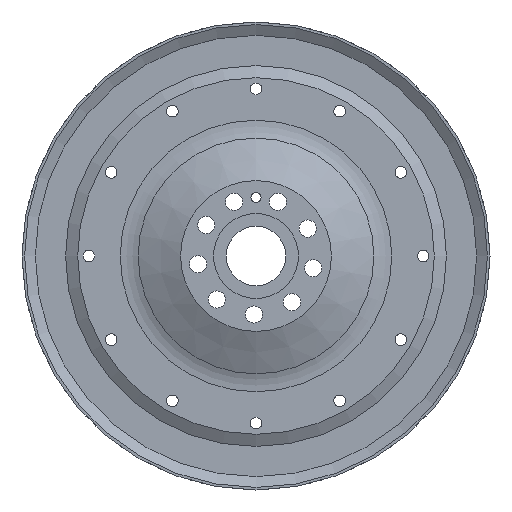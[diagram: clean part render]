
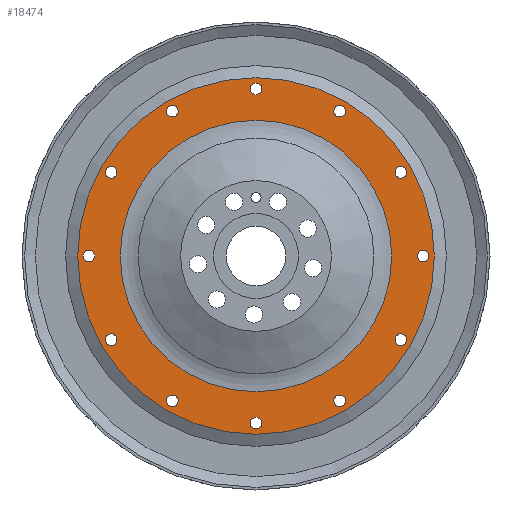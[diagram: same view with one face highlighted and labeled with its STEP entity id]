
A CAD part, left-side view. The second image highlights one B-rep face of the part: STEP entity #18474.
In plain terms, the highlighted planar face has unit normal (-1, 0, 0).
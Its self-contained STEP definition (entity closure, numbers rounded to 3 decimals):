
#417=PLANE('',#19600);
#7060=ORIENTED_EDGE('',*,*,#9190,.F.);
#7061=ORIENTED_EDGE('',*,*,#9191,.F.);
#7062=ORIENTED_EDGE('',*,*,#9192,.F.);
#7063=ORIENTED_EDGE('',*,*,#9193,.F.);
#7064=ORIENTED_EDGE('',*,*,#9194,.F.);
#7065=ORIENTED_EDGE('',*,*,#9195,.F.);
#7066=ORIENTED_EDGE('',*,*,#9196,.F.);
#7067=ORIENTED_EDGE('',*,*,#9197,.F.);
#7068=ORIENTED_EDGE('',*,*,#9198,.F.);
#7069=ORIENTED_EDGE('',*,*,#9199,.F.);
#7070=ORIENTED_EDGE('',*,*,#9200,.F.);
#7071=ORIENTED_EDGE('',*,*,#9201,.F.);
#7072=ORIENTED_EDGE('',*,*,#9202,.T.);
#7073=ORIENTED_EDGE('',*,*,#9189,.F.);
#9189=EDGE_CURVE('',#10581,#10581,#11047,.T.);
#9190=EDGE_CURVE('',#10582,#10582,#11048,.T.);
#9191=EDGE_CURVE('',#10583,#10583,#11049,.T.);
#9192=EDGE_CURVE('',#10584,#10584,#11050,.T.);
#9193=EDGE_CURVE('',#10585,#10585,#11051,.T.);
#9194=EDGE_CURVE('',#10586,#10586,#11052,.T.);
#9195=EDGE_CURVE('',#10587,#10587,#11053,.T.);
#9196=EDGE_CURVE('',#10588,#10588,#11054,.T.);
#9197=EDGE_CURVE('',#10589,#10589,#11055,.T.);
#9198=EDGE_CURVE('',#10590,#10590,#11056,.T.);
#9199=EDGE_CURVE('',#10591,#10591,#11057,.T.);
#9200=EDGE_CURVE('',#10592,#10592,#11058,.T.);
#9201=EDGE_CURVE('',#10593,#10593,#11059,.T.);
#9202=EDGE_CURVE('',#10594,#10594,#11060,.T.);
#10581=VERTEX_POINT('',#28949);
#10582=VERTEX_POINT('',#28952);
#10583=VERTEX_POINT('',#28954);
#10584=VERTEX_POINT('',#28956);
#10585=VERTEX_POINT('',#28958);
#10586=VERTEX_POINT('',#28960);
#10587=VERTEX_POINT('',#28962);
#10588=VERTEX_POINT('',#28964);
#10589=VERTEX_POINT('',#28966);
#10590=VERTEX_POINT('',#28968);
#10591=VERTEX_POINT('',#28970);
#10592=VERTEX_POINT('',#28972);
#10593=VERTEX_POINT('',#28974);
#10594=VERTEX_POINT('',#28976);
#11047=CIRCLE('',#19599,81.22);
#11048=CIRCLE('',#19601,3.459);
#11049=CIRCLE('',#19602,3.459);
#11050=CIRCLE('',#19603,3.459);
#11051=CIRCLE('',#19604,3.459);
#11052=CIRCLE('',#19605,3.459);
#11053=CIRCLE('',#19606,3.459);
#11054=CIRCLE('',#19607,3.459);
#11055=CIRCLE('',#19608,3.459);
#11056=CIRCLE('',#19609,3.459);
#11057=CIRCLE('',#19610,3.459);
#11058=CIRCLE('',#19611,3.459);
#11059=CIRCLE('',#19612,3.459);
#11060=CIRCLE('',#19613,106.68);
#11779=EDGE_LOOP('',(#7060));
#11780=EDGE_LOOP('',(#7061));
#11781=EDGE_LOOP('',(#7062));
#11782=EDGE_LOOP('',(#7063));
#11783=EDGE_LOOP('',(#7064));
#11784=EDGE_LOOP('',(#7065));
#11785=EDGE_LOOP('',(#7066));
#11786=EDGE_LOOP('',(#7067));
#11787=EDGE_LOOP('',(#7068));
#11788=EDGE_LOOP('',(#7069));
#11789=EDGE_LOOP('',(#7070));
#11790=EDGE_LOOP('',(#7071));
#11791=EDGE_LOOP('',(#7072));
#11792=EDGE_LOOP('',(#7073));
#12581=FACE_BOUND('',#11779,.T.);
#12582=FACE_BOUND('',#11780,.T.);
#12583=FACE_BOUND('',#11781,.T.);
#12584=FACE_BOUND('',#11782,.T.);
#12585=FACE_BOUND('',#11783,.T.);
#12586=FACE_BOUND('',#11784,.T.);
#12587=FACE_BOUND('',#11785,.T.);
#12588=FACE_BOUND('',#11786,.T.);
#12589=FACE_BOUND('',#11787,.T.);
#12590=FACE_BOUND('',#11788,.T.);
#12591=FACE_BOUND('',#11789,.T.);
#12592=FACE_BOUND('',#11790,.T.);
#12593=FACE_BOUND('',#11791,.T.);
#12594=FACE_BOUND('',#11792,.T.);
#18474=ADVANCED_FACE('',(#12581,#12582,#12583,#12584,#12585,#12586,#12587,
#12588,#12589,#12590,#12591,#12592,#12593,#12594),#417,.T.);
#19599=AXIS2_PLACEMENT_3D('',#28948,#22771,#22772);
#19600=AXIS2_PLACEMENT_3D('',#28950,#22773,#22774);
#19601=AXIS2_PLACEMENT_3D('',#28951,#22775,#22776);
#19602=AXIS2_PLACEMENT_3D('',#28953,#22777,#22778);
#19603=AXIS2_PLACEMENT_3D('',#28955,#22779,#22780);
#19604=AXIS2_PLACEMENT_3D('',#28957,#22781,#22782);
#19605=AXIS2_PLACEMENT_3D('',#28959,#22783,#22784);
#19606=AXIS2_PLACEMENT_3D('',#28961,#22785,#22786);
#19607=AXIS2_PLACEMENT_3D('',#28963,#22787,#22788);
#19608=AXIS2_PLACEMENT_3D('',#28965,#22789,#22790);
#19609=AXIS2_PLACEMENT_3D('',#28967,#22791,#22792);
#19610=AXIS2_PLACEMENT_3D('',#28969,#22793,#22794);
#19611=AXIS2_PLACEMENT_3D('',#28971,#22795,#22796);
#19612=AXIS2_PLACEMENT_3D('',#28973,#22797,#22798);
#19613=AXIS2_PLACEMENT_3D('',#28975,#22799,#22800);
#22771=DIRECTION('',(-1.,0.,0.));
#22772=DIRECTION('',(0.,0.,1.));
#22773=DIRECTION('',(-1.,0.,0.));
#22774=DIRECTION('',(0.,0.,1.));
#22775=DIRECTION('',(-1.,0.,0.));
#22776=DIRECTION('',(0.,0.,1.));
#22777=DIRECTION('',(-1.,0.,0.));
#22778=DIRECTION('',(0.,0.,1.));
#22779=DIRECTION('',(-1.,0.,0.));
#22780=DIRECTION('',(0.,0.,1.));
#22781=DIRECTION('',(-1.,0.,0.));
#22782=DIRECTION('',(0.,0.,1.));
#22783=DIRECTION('',(-1.,0.,0.));
#22784=DIRECTION('',(0.,0.,1.));
#22785=DIRECTION('',(-1.,0.,0.));
#22786=DIRECTION('',(0.,0.,1.));
#22787=DIRECTION('',(-1.,0.,0.));
#22788=DIRECTION('',(0.,0.,1.));
#22789=DIRECTION('',(-1.,0.,0.));
#22790=DIRECTION('',(0.,0.,1.));
#22791=DIRECTION('',(-1.,0.,0.));
#22792=DIRECTION('',(0.,0.,1.));
#22793=DIRECTION('',(-1.,0.,0.));
#22794=DIRECTION('',(0.,0.,1.));
#22795=DIRECTION('',(-1.,0.,0.));
#22796=DIRECTION('',(0.,0.,1.));
#22797=DIRECTION('',(-1.,0.,0.));
#22798=DIRECTION('',(0.,0.,1.));
#22799=DIRECTION('',(-1.,0.,0.));
#22800=DIRECTION('',(0.,0.,1.));
#28948=CARTESIAN_POINT('',(14.224,0.,0.));
#28949=CARTESIAN_POINT('',(14.224,0.,81.22));
#28950=CARTESIAN_POINT('',(14.224,0.,106.68));
#28951=CARTESIAN_POINT('',(14.224,0.,100.013));
#28952=CARTESIAN_POINT('',(14.224,0.,103.471));
#28953=CARTESIAN_POINT('',(14.224,50.006,86.613));
#28954=CARTESIAN_POINT('',(14.224,50.006,90.072));
#28955=CARTESIAN_POINT('',(14.224,86.613,50.006));
#28956=CARTESIAN_POINT('',(14.224,86.613,53.465));
#28957=CARTESIAN_POINT('',(14.224,100.013,0.));
#28958=CARTESIAN_POINT('',(14.224,100.013,3.458));
#28959=CARTESIAN_POINT('',(14.224,86.613,-50.006));
#28960=CARTESIAN_POINT('',(14.224,86.613,-46.548));
#28961=CARTESIAN_POINT('',(14.224,50.006,-86.613));
#28962=CARTESIAN_POINT('',(14.224,50.006,-83.155));
#28963=CARTESIAN_POINT('',(14.224,0.,-100.013));
#28964=CARTESIAN_POINT('',(14.224,0.,-96.554));
#28965=CARTESIAN_POINT('',(14.224,-50.006,-86.613));
#28966=CARTESIAN_POINT('',(14.224,-50.006,-83.155));
#28967=CARTESIAN_POINT('',(14.224,-86.613,-50.006));
#28968=CARTESIAN_POINT('',(14.224,-86.613,-46.548));
#28969=CARTESIAN_POINT('',(14.224,-100.013,0.));
#28970=CARTESIAN_POINT('',(14.224,-100.013,3.459));
#28971=CARTESIAN_POINT('',(14.224,-86.613,50.006));
#28972=CARTESIAN_POINT('',(14.224,-86.613,53.465));
#28973=CARTESIAN_POINT('',(14.224,-50.006,86.613));
#28974=CARTESIAN_POINT('',(14.224,-50.006,90.072));
#28975=CARTESIAN_POINT('',(14.224,0.,0.));
#28976=CARTESIAN_POINT('',(14.224,0.,106.68));
